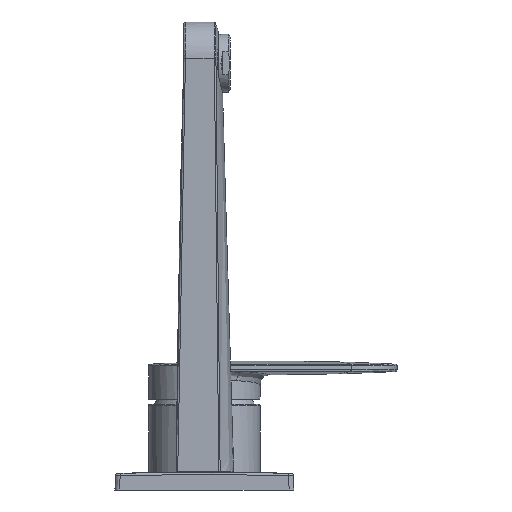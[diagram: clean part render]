
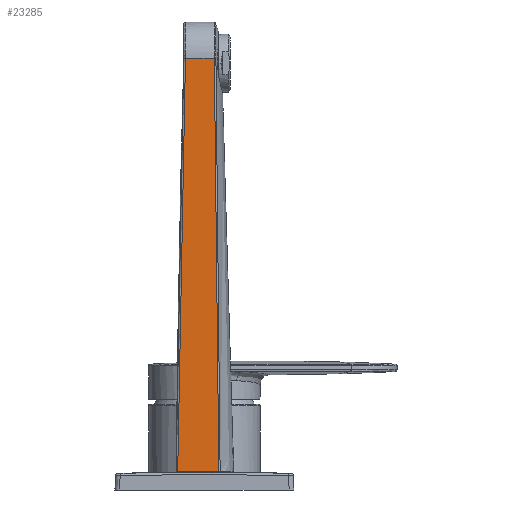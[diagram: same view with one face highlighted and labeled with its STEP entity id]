
A CAD part, left-side view. The second image highlights one B-rep face of the part: STEP entity #23285.
In plain terms, the highlighted planar face has unit normal (-1, 0, 0).
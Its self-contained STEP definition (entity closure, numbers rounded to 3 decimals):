
#16307=CARTESIAN_POINT('',(-115.,-4.071,198.312));
#16314=DIRECTION('',(0.,-1.,0.));
#16315=VECTOR('',#16314,16.975);
#16316=CARTESIAN_POINT('',(-115.,11.03,27.777));
#16317=LINE('',#16316,#16315);
#16318=CARTESIAN_POINT('',(-115.,7.834,198.21));
#16319=CARTESIAN_POINT('',(-115.,8.189,179.273));
#16320=CARTESIAN_POINT('',(-115.,8.899,141.399));
#16321=CARTESIAN_POINT('',(-115.,9.965,84.588));
#16322=CARTESIAN_POINT('',(-115.,10.675,46.714));
#16323=CARTESIAN_POINT('',(-115.,11.03,27.777));
#16325=DIRECTION('',(0.,-1.,0.009));
#16326=VECTOR('',#16325,11.906);
#16327=CARTESIAN_POINT('',(-115.,7.834,198.21));
#16328=LINE('',#16327,#16326);
#16329=CARTESIAN_POINT('',(-115.,-5.945,27.777));
#16330=CARTESIAN_POINT('',(-115.,-5.904,31.7));
#16331=CARTESIAN_POINT('',(-115.,-5.821,39.555));
#16332=CARTESIAN_POINT('',(-115.,-5.695,51.37));
#16333=CARTESIAN_POINT('',(-115.,-5.568,63.214));
#16334=CARTESIAN_POINT('',(-115.,-5.44,75.087));
#16335=CARTESIAN_POINT('',(-115.,-5.311,86.987));
#16336=CARTESIAN_POINT('',(-115.,-5.181,98.916));
#16337=CARTESIAN_POINT('',(-115.,-5.05,110.892));
#16338=CARTESIAN_POINT('',(-115.,-4.918,122.931));
#16339=CARTESIAN_POINT('',(-115.,-4.783,135.069));
#16340=CARTESIAN_POINT('',(-115.,-4.646,147.35));
#16341=CARTESIAN_POINT('',(-115.,-4.507,159.799));
#16342=CARTESIAN_POINT('',(-115.,-4.365,172.427));
#16343=CARTESIAN_POINT('',(-115.,-4.22,185.248));
#16344=CARTESIAN_POINT('',(-115.,-4.121,193.935));
#16345=CARTESIAN_POINT('',(-115.,-4.071,198.312));
#18414=CARTESIAN_POINT('',(-115.,7.834,198.21));
#19304=VERTEX_POINT('',#16307);
#19307=VERTEX_POINT('',#18414);
#19321=CARTESIAN_POINT('',(-115.,11.03,27.777));
#19322=CARTESIAN_POINT('',(-115.,-5.945,27.777));
#19323=VERTEX_POINT('',#19321);
#19324=VERTEX_POINT('',#19322);
#23272=CARTESIAN_POINT('',(-115.,2.566,98.277));
#23273=DIRECTION('',(-1.,0.,0.));
#23274=DIRECTION('',(0.,-1.,0.));
#23275=AXIS2_PLACEMENT_3D('',#23272,#23273,#23274);
#23276=PLANE('',#23275);
#23277=ORIENTED_EDGE('',*,*,#23088,.F.);
#23279=ORIENTED_EDGE('',*,*,#23278,.F.);
#23281=ORIENTED_EDGE('',*,*,#23280,.T.);
#23282=ORIENTED_EDGE('',*,*,#23265,.F.);
#23283=EDGE_LOOP('',(#23277,#23279,#23281,#23282));
#23284=FACE_OUTER_BOUND('',#23283,.F.);
#23285=ADVANCED_FACE('',(#23284),#23276,.T.);
#16324=B_SPLINE_CURVE_WITH_KNOTS('',3,(#16318,#16319,#16320,#16321,#16322,
#16323),.UNSPECIFIED.,.F.,.F.,(4,1,1,4),(0.,0.333,
0.667,1.),.UNSPECIFIED.);
#16346=B_SPLINE_CURVE_WITH_KNOTS('',3,(#16329,#16330,#16331,#16332,#16333,
#16334,#16335,#16336,#16337,#16338,#16339,#16340,#16341,#16342,#16343,#16344,
#16345),.UNSPECIFIED.,.F.,.F.,(4,1,1,1,1,1,1,1,1,1,1,1,1,1,4),(0.,
0.071,0.143,0.214,0.286,
0.357,0.429,0.5,0.571,0.643,
0.714,0.786,0.857,0.929,1.),
.UNSPECIFIED.);
#23088=EDGE_CURVE('',#19323,#19324,#16317,.T.);
#23265=EDGE_CURVE('',#19324,#19304,#16346,.T.);
#23278=EDGE_CURVE('',#19307,#19323,#16324,.T.);
#23280=EDGE_CURVE('',#19307,#19304,#16328,.T.);
